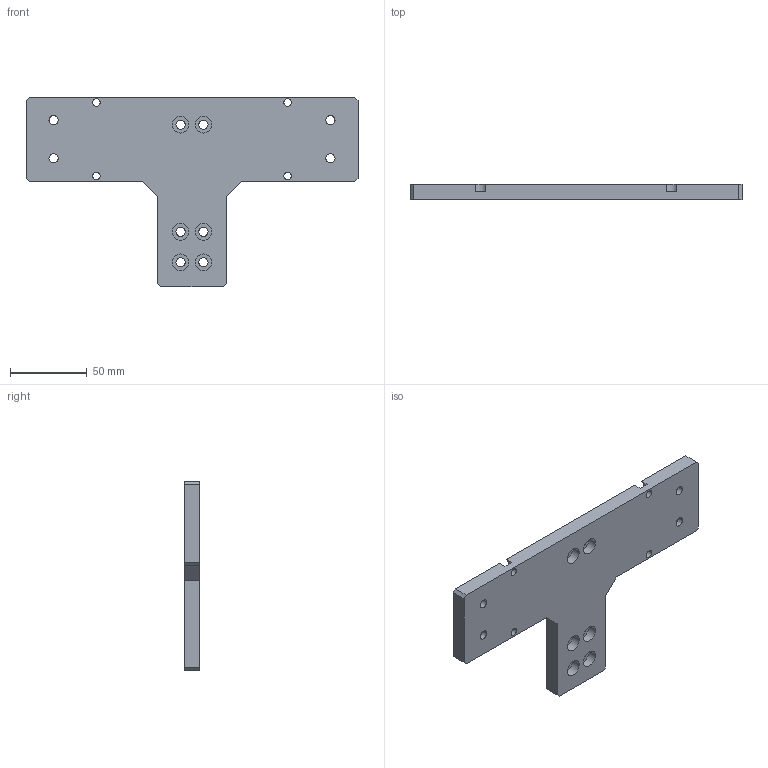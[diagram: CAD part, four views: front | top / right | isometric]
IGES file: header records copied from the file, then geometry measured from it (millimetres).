
Start section:  PTC IGES file: n46-n60m-st.igs
Global section: file name: n46-n60m-st.igs; native system: Pro/ENGINEER by Parametric Technology Corporation; preprocessor: 2008230; author: Owner; organization: Unknown; date: 20121211.162137; units: millimetre
Bounding box: 217 x 10 x 124 mm (x, y, z)
Surface area: 39635 mm2 (no closed solid volume)
Topology: 0 solids, 0 shells, 84 faces, 432 edges, 432 vertices
Faces by surface type: revolution 52, bspline 32
